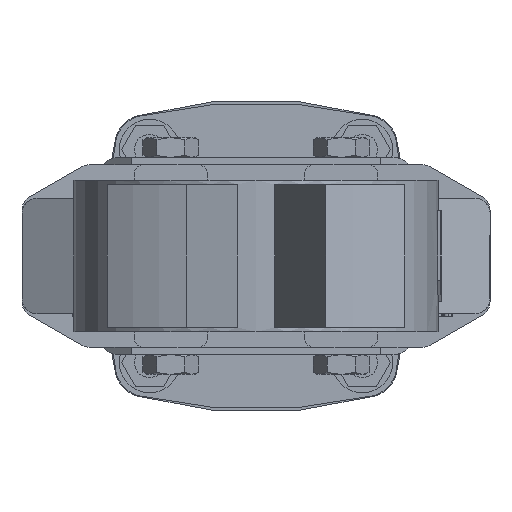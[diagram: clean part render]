
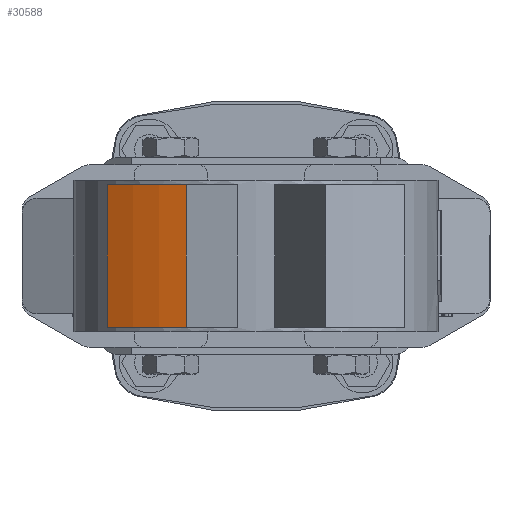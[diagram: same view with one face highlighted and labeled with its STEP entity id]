
A CAD part, front view. The second image highlights one B-rep face of the part: STEP entity #30588.
In plain terms, the highlighted cylindrical face has radius 95 mm (diameter 190 mm), a partial arc.
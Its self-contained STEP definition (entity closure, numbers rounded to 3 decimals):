
#7218 = CARTESIAN_POINT ( 'NONE',  ( 0., 0., 23.5 ) ) ;
#7219 = AXIS2_PLACEMENT_3D ( 'NONE', #7218, #8878, #8876 ) ;
#8704 = CARTESIAN_POINT ( 'NONE',  ( -48.892, -81.453, 23.5 ) ) ;
#8761 = CIRCLE ( 'NONE', #7219, 95. ) ;
#8813 = CARTESIAN_POINT ( 'NONE',  ( -23.024, -92.168, 23.5 ) ) ;
#8876 = DIRECTION ( 'NONE',  ( 1., 0., 0. ) ) ;
#8878 = DIRECTION ( 'NONE',  ( 0., 0., -1. ) ) ;
#8951 = DIRECTION ( 'NONE',  ( 1., 0., 0. ) ) ;
#8953 = DIRECTION ( 'NONE',  ( 0., 0., -1. ) ) ;
#8955 = CARTESIAN_POINT ( 'NONE',  ( 0., 0., -23.5 ) ) ;
#8956 = AXIS2_PLACEMENT_3D ( 'NONE', #8955, #8953, #8951 ) ;
#8957 = CIRCLE ( 'NONE', #8956, 95. ) ;
#8968 = CARTESIAN_POINT ( 'NONE',  ( -48.892, -81.453, -23.5 ) ) ;
#9042 = CARTESIAN_POINT ( 'NONE',  ( -23.024, -92.168, -23.5 ) ) ;
#10785 = DIRECTION ( 'NONE',  ( 0., 0., -1. ) ) ;
#10786 = VECTOR ( 'NONE', #10785, 1000. ) ;
#10787 = CARTESIAN_POINT ( 'NONE',  ( -23.024, -92.168, 23.5 ) ) ;
#10788 = LINE ( 'NONE', #10787, #10786 ) ;
#10999 = DIRECTION ( 'NONE',  ( -1., 0., 0. ) ) ;
#11000 = DIRECTION ( 'NONE',  ( 0., 0., -1. ) ) ;
#11001 = CARTESIAN_POINT ( 'NONE',  ( 0., 0., 23.5 ) ) ;
#11002 = AXIS2_PLACEMENT_3D ( 'NONE', #11001, #11000, #10999 ) ;
#11010 = CYLINDRICAL_SURFACE ( 'NONE', #11002, 95. ) ;
#11011 = FACE_OUTER_BOUND ( 'NONE', #30540, .T. ) ;
#16046 = DIRECTION ( 'NONE',  ( 0., 0., -1. ) ) ;
#16048 = VECTOR ( 'NONE', #16046, 1000. ) ;
#16050 = CARTESIAN_POINT ( 'NONE',  ( -48.892, -81.453, 23.5 ) ) ;
#16051 = LINE ( 'NONE', #16050, #16048 ) ;
#29724 = VERTEX_POINT ( 'NONE', #8704 ) ;
#29730 = VERTEX_POINT ( 'NONE', #8813 ) ;
#29746 = EDGE_CURVE ( 'NONE', #29730, #29724, #8761, .T. ) ;
#29786 = VERTEX_POINT ( 'NONE', #8968 ) ;
#29795 = EDGE_CURVE ( 'NONE', #29800, #29786, #8957, .T. ) ;
#29800 = VERTEX_POINT ( 'NONE', #9042 ) ;
#30518 = ORIENTED_EDGE ( 'NONE', *, *, #29746, .T. ) ;
#30520 = EDGE_CURVE ( 'NONE', #29730, #29800, #10788, .T. ) ;
#30540 = EDGE_LOOP ( 'NONE', ( #30641, #30637, #30518, #30650 ) ) ;
#30588 = ADVANCED_FACE ( 'NONE', ( #11011 ), #11010, .T. ) ;
#30637 = ORIENTED_EDGE ( 'NONE', *, *, #30520, .F. ) ;
#30641 = ORIENTED_EDGE ( 'NONE', *, *, #29795, .F. ) ;
#30650 = ORIENTED_EDGE ( 'NONE', *, *, #30765, .T. ) ;
#30765 = EDGE_CURVE ( 'NONE', #29724, #29786, #16051, .T. ) ;
